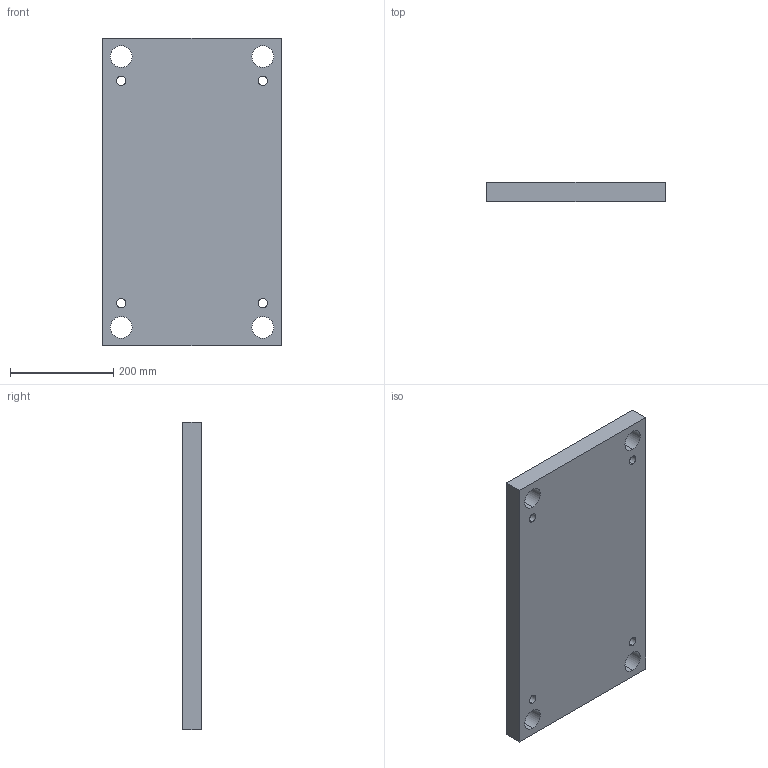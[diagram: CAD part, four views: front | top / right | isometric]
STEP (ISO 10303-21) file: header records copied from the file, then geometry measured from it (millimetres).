
FILE_DESCRIPTION (( 'STEP AP214' ), '1' );
FILE_NAME ('L45_346x596x036.STEP', '2018-10-05T18:40:07', ( '' ), ( '' ), 'SwSTEP 2.0', 'SolidWorks 2014', '' );
FILE_SCHEMA (( 'AUTOMOTIVE_DESIGN' ));
Length unit declared in the file: millimetre
Products named in the file (1): L45_346x596x036
Bounding box: 346 x 36 x 596 mm (x, y, z)
Volume: 7187628.8 mm3; surface area: 494280.1 mm2
Topology: 1 solids, 1 shells, 22 faces, 60 edges, 40 vertices
Faces by surface type: cylinder 16, plane 6
Entity records: 782 total; most frequent: DIRECTION 138, CARTESIAN_POINT 123, ORIENTED_EDGE 120, EDGE_CURVE 60, AXIS2_PLACEMENT_3D 55, VERTEX_POINT 40, EDGE_LOOP 38, CIRCLE 32
